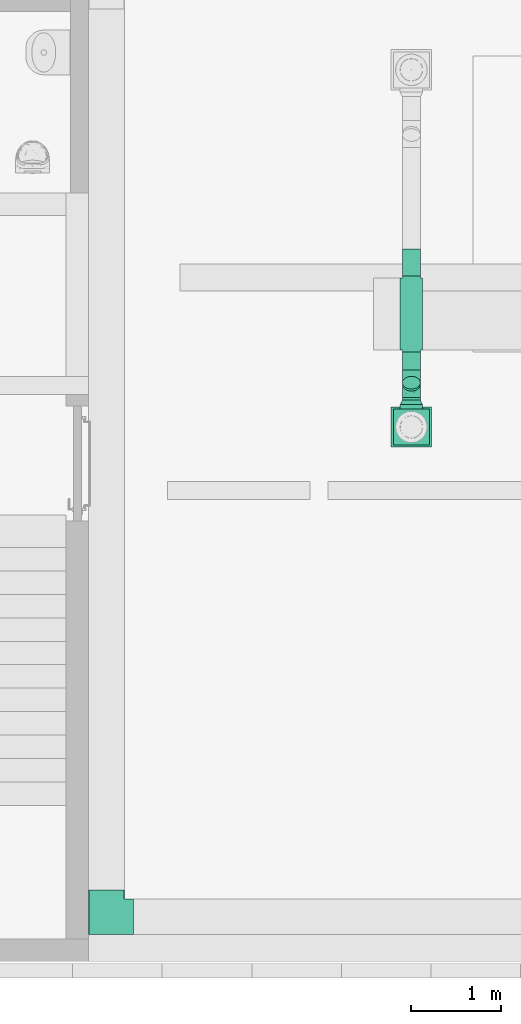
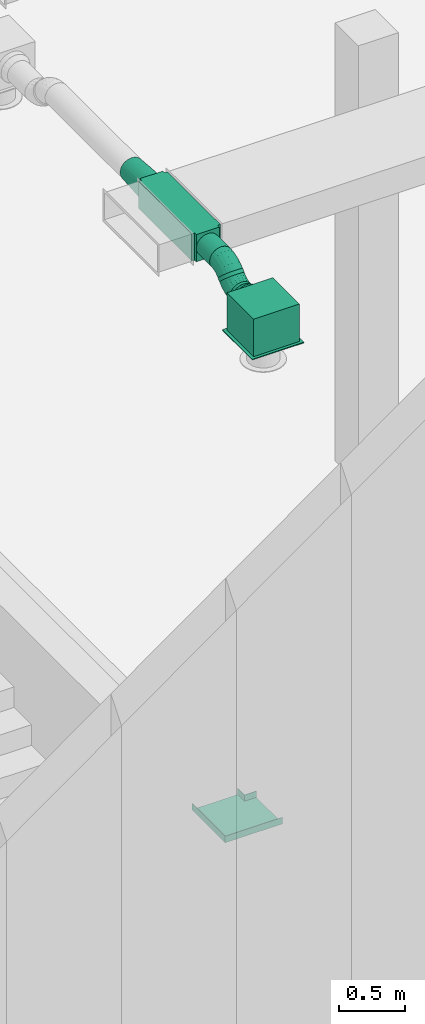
# One storey, part 258 of 302: 6 flow fittings, 3 flow segments, 1 flow terminal.
"""IFC2X3 building model written with IfcOpenShell, lengths in metres."""

from ifc_helpers import new_model, entity, si_unit, converted_unit, derived_unit, direction, frame, frame_2d, origin, origin_2d_with_axis, place, context, subcontext, project, spatial, polyline, rectangle, circle, outline, extrude, faceted_brep, source, transform, mapped, material, material_list, type_object, type_shapes, element, save


model = new_model("IFC2X3")

# Units and contexts
model_context = context("Model", 3, precision=1e-05, world=origin(), true_north=direction((6.12303176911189e-17, 1.0)))
body_context = subcontext(model_context, "Body", "Model", "MODEL_VIEW")
ifc_project = project(units=[si_unit("LENGTHUNIT", "METRE"), si_unit("AREAUNIT", "SQUARE_METRE"), si_unit("VOLUMEUNIT", "CUBIC_METRE"), converted_unit("PLANEANGLEUNIT", "DEGREE", entity("IfcRatioMeasure", 0.0174532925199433), si_unit("PLANEANGLEUNIT", "RADIAN"), dimensions=[0, 0, 0, 0, 0, 0, 0]), si_unit("MASSUNIT", "GRAM", prefix="KILO"), derived_unit("MASSDENSITYUNIT", [(si_unit("MASSUNIT", "GRAM", prefix="KILO"), 1), (si_unit("LENGTHUNIT", "METRE"), -3)]), derived_unit("MOMENTOFINERTIAUNIT", [(si_unit("LENGTHUNIT", "METRE"), 4)]), si_unit("TIMEUNIT", "SECOND"), si_unit("FREQUENCYUNIT", "HERTZ"), si_unit("THERMODYNAMICTEMPERATUREUNIT", "DEGREE_CELSIUS"), derived_unit("THERMALTRANSMITTANCEUNIT", [(si_unit("MASSUNIT", "GRAM", prefix="KILO"), 1), (si_unit("THERMODYNAMICTEMPERATUREUNIT", "KELVIN"), -1), (si_unit("TIMEUNIT", "SECOND"), -3)]), derived_unit("VOLUMETRICFLOWRATEUNIT", [(si_unit("LENGTHUNIT", "METRE"), 3), (si_unit("TIMEUNIT", "SECOND"), -1)]), si_unit("ELECTRICCURRENTUNIT", "AMPERE"), si_unit("ELECTRICVOLTAGEUNIT", "VOLT"), si_unit("POWERUNIT", "WATT"), si_unit("FORCEUNIT", "NEWTON", prefix="KILO"), si_unit("ILLUMINANCEUNIT", "LUX"), si_unit("LUMINOUSFLUXUNIT", "LUMEN"), si_unit("LUMINOUSINTENSITYUNIT", "CANDELA"), derived_unit("USERDEFINED", [(si_unit("MASSUNIT", "GRAM", prefix="KILO"), -1), (si_unit("LENGTHUNIT", "METRE"), -2), (si_unit("TIMEUNIT", "SECOND"), 3), (si_unit("LUMINOUSFLUXUNIT", "LUMEN"), 1)]), derived_unit("LINEARVELOCITYUNIT", [(si_unit("LENGTHUNIT", "METRE"), 1), (si_unit("TIMEUNIT", "SECOND"), -1)]), si_unit("PRESSUREUNIT", "PASCAL"), derived_unit("USERDEFINED", [(si_unit("LENGTHUNIT", "METRE"), -2), (si_unit("MASSUNIT", "GRAM", prefix="KILO"), 1), (si_unit("TIMEUNIT", "SECOND"), -2)]), derived_unit("LINEARFORCEUNIT", [(si_unit("MASSUNIT", "GRAM", prefix="KILO"), 1), (si_unit("LENGTHUNIT", "METRE"), 1), (si_unit("TIMEUNIT", "SECOND"), -2), (si_unit("LENGTHUNIT", "METRE"), -1)]), derived_unit("PLANARFORCEUNIT", [(si_unit("MASSUNIT", "GRAM", prefix="KILO"), 1), (si_unit("LENGTHUNIT", "METRE"), 1), (si_unit("TIMEUNIT", "SECOND"), -2), (si_unit("LENGTHUNIT", "METRE"), -2)])], contexts=[model_context])

# Site, building, storey
site_placement = place(None, origin())
site = spatial("IfcSite", under=ifc_project, at=site_placement, Name="Default", CompositionType="ELEMENT")
building_placement = place(site_placement, origin())
building = spatial("IfcBuilding", under=site, at=building_placement, CompositionType="ELEMENT")
storey_placement = place(building_placement, frame((0.0, 0.0, -1.3)))
storey = spatial("IfcBuildingStorey", under=building, at=storey_placement, Name="00_EG", CompositionType="ELEMENT", Elevation=-1.3)

# Flow fitting
ifc_material = material(Name="<Unnamed>")
cable_carrier_fitting_type = type_object("IfcCableCarrierFittingType", Name="Kabeltrasse - Bogen (Ecke) reduzierend:Standard", PredefinedType="NOTDEFINED", material=ifc_material)
shared_shape_1 = source(origin(), body_context, "Body", "Brep", [
    faceted_brep([(-0.299999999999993, -0.200000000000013, -0.0300000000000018), (-0.299999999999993, -0.200000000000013, 0.0299999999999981), (-0.299999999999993, -0.197460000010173, 0.0299999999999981), (-0.299999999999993, -0.197460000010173, -0.0274600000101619), (-0.299999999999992, 0.197460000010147, -0.0274600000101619), (-0.299999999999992, 0.197460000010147, 0.0299999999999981), (-0.299999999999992, 0.199999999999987, 0.0299999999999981), (-0.299999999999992, 0.199999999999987, -0.0300000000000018), (0.200000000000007, 0.299999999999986, -0.0300000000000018), (-0.199999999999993, 0.299999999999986, -0.0300000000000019), (-0.199999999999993, 0.299999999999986, 0.0299999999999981), (-0.197460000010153, 0.299999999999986, 0.0299999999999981), (-0.197460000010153, 0.299999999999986, -0.0274600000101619), (0.197460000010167, 0.299999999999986, -0.0274600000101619), (0.197460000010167, 0.299999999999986, 0.0299999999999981), (0.200000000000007, 0.299999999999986, 0.0299999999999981), (0.200000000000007, -0.200000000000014, -0.0300000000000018), (0.200000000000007, -0.200000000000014, 0.0299999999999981), (0.197460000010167, -0.197460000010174, 0.0299999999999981), (0.197460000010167, -0.197460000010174, -0.0274600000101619), (-0.197460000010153, 0.197460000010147, -0.0274600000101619), (-0.197460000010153, 0.197460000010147, 0.0299999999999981), (-0.199999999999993, 0.199999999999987, 0.0299999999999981), (-0.199999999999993, 0.199999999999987, -0.0300000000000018)], [[[0, 1, 2, 3, 4, 5, 6, 7]], [[8, 9, 10, 11, 12, 13, 14, 15]], [[1, 0, 16, 17]], [[2, 1, 17, 15, 14, 18]], [[3, 2, 18, 19]], [[4, 3, 19, 13, 12, 20]], [[5, 4, 20, 21]], [[6, 5, 21, 11, 10, 22]], [[7, 6, 22, 23]], [[0, 7, 23, 9, 8, 16]], [[17, 16, 8, 15]], [[19, 18, 14, 13]], [[21, 20, 12, 11]], [[23, 22, 10, 9]]]),
])
type_shapes(cable_carrier_fitting_type, [shared_shape_1])
flow_fitting_1_placement = place(storey_placement, frame((-262.460111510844, 15.4980889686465, 4.85), z_axis=(0.0, 0.0, 1.0), x_axis=(0.0, -1.0, 0.0)))
element("IfcFlowFitting", 1, at=flow_fitting_1_placement, inside=storey, type_object=cable_carrier_fitting_type, material=ifc_material, Name="Kabeltrasse - Bogen (Ecke) reduzierend:Standard", ObjectType="Kabeltrasse - Bogen (Ecke) reduzierend:Standard", context=body_context, shape_type="MappedRepresentation", body=[
    mapped(shared_shape_1, transform((0.0, 0.0, 0.0), scale=1.0)),
])

# Flow segments
duct_segment_type = type_object("IfcDuctSegmentType", Name="Rund:STR_Segment_RND_GS_EA", PredefinedType="NOTDEFINED")
flow_segment_1_placement = place(storey_placement, origin())
element("IfcFlowSegment", 2, at=flow_segment_1_placement, inside=storey, type_object=duct_segment_type, Name="Rund:STR_Segment_RND_GS_EA", ObjectType="Rund:STR_Segment_RND_GS_EA", context=body_context, shape_type="SweptSolid", body=[
    extrude(circle(Radius=0.1, at=frame_2d((0.0, -3.06281271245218e-15), x_axis=(1.0, 0.0))), frame((-259.059474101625, 21.4325516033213, 5.04357873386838), z_axis=(0.0, 0.707106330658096, 0.707107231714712), x_axis=(1.0, 0.0, 0.0)), (0.0, 0.0, 1.0), 0.0323041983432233),
])
flow_segment_2_placement = place(storey_placement, origin())
element("IfcFlowSegment", 3, at=flow_segment_2_placement, inside=storey, type_object=duct_segment_type, Name="Rund:STR_Segment_RND_GS_EA", ObjectType="Rund:STR_Segment_RND_GS_EA", context=body_context, shape_type="SweptSolid", body=[
    extrude(circle(Radius=0.1, at=origin_2d_with_axis()), frame((-259.059474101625, 21.2618155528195, 4.985), z_axis=(0.0, 1.0, 0.0), x_axis=(1.0, 0.0, 0.0)), (0.0, 0.0, 1.0), 0.0293146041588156),
])
flow_segment_3_placement = place(storey_placement, origin())
element("IfcFlowSegment", 4, at=flow_segment_3_placement, inside=storey, type_object=duct_segment_type, Name="Rund:STR_Segment_RND_GS_EA", ObjectType="Rund:STR_Segment_RND_GS_EA", context=body_context, shape_type="SweptSolid", body=[
    extrude(circle(Radius=0.1, at=origin_2d_with_axis()), frame((-259.059474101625, 21.5968155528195, 5.12500000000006), z_axis=(0.0, 1.0, 0.0), x_axis=(1.0, 0.0, 0.0)), (0.0, 0.0, 1.0), 0.200000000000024),
])

# Flow fittings
duct_fitting_type_1 = type_object("IfcDuctFittingType", Name="STR_RCT_Cross:STR_Cross_RCT_GS_RA", PredefinedType="NOTDEFINED", material=ifc_material)
shared_shape_2 = source(origin(), body_context, "Body", "SweptSolid", [
    extrude(outline(polyline([(-0.424999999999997, 0.0999999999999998), (-0.424999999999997, -0.1), (-0.400000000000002, -0.1), (-0.400000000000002, -0.124999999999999), (0.399999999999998, -0.124999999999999), (0.399999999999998, -0.100000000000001), (0.425000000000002, -0.100000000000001), (0.425000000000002, 0.0999999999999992), (0.399999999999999, 0.0999999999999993), (0.399999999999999, 0.125000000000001), (-0.400000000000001, 0.125000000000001), (-0.400000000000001, 0.0999999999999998), (-0.424999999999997, 0.0999999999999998)])), frame((0.0, 0.0, -0.125000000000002), z_axis=(0.0, 0.0, -1.0), x_axis=(0.0, 1.0, 0.0)), (0.0, 0.0, -1.0), 0.25),
])
type_shapes(duct_fitting_type_1, [shared_shape_2])
flow_fitting_2_placement = place(storey_placement, frame((-259.059474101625, 22.2218155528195, 5.125)))
element("IfcFlowFitting", 5, at=flow_fitting_2_placement, inside=storey, type_object=duct_fitting_type_1, material=ifc_material, Name="STR_RCT_Cross:STR_Cross_RCT_GS_RA", ObjectType="STR_RCT_Cross:STR_Cross_RCT_GS_RA", context=body_context, shape_type="MappedRepresentation", body=[
    mapped(shared_shape_2, transform((0.0, 0.0, 0.0), scale=1.0)),
])
duct_fitting_type_2 = type_object("IfcDuctFittingType", Name="STR_OVL_Transition:STR_Transition_OVL_GS_EA", PredefinedType="NOTDEFINED", material=ifc_material)
shared_shape_3 = source(origin(), body_context, "Body", "Brep", [
    faceted_brep([(0.300000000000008, 0.0999999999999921, 0.00158749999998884), (0.300000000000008, 0.0966466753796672, 0.0270585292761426), (0.300000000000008, 0.0868152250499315, 0.050793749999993), (0.300000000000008, 0.0711756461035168, 0.0711756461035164), (0.300000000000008, 0.0507937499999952, 0.0868152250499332), (0.300000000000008, 0.0270585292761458, 0.0966466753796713), (0.300000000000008, 0.00158749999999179, 0.0999999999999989), (0.300000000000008, -0.00158750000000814, 0.0999999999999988), (0.300000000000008, -0.0270585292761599, 0.0966466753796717), (0.300000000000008, -0.0507937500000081, 0.0868152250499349), (0.300000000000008, -0.0711756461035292, 0.07117564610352), (0.300000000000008, -0.0868152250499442, 0.0507937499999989), (0.300000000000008, -0.0966466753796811, 0.0270585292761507), (0.300000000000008, -0.100000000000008, 0.00158749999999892), (0.300000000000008, -0.100000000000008, -0.00158750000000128), (0.300000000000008, -0.0966466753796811, -0.0270585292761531), (0.300000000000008, -0.0868152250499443, -0.0507937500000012), (0.300000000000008, -0.0711756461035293, -0.0711756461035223), (0.300000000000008, -0.0507937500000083, -0.0868152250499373), (0.300000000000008, -0.0270585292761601, -0.0966466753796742), (0.300000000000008, -0.00158750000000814, -0.100000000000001), (0.300000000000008, 0.0015874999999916, -0.100000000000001), (0.300000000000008, 0.0270585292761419, -0.0966466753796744), (0.300000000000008, 0.0507937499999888, -0.0868152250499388), (0.300000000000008, 0.0711756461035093, -0.0711756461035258), (0.300000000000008, 0.0868152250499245, -0.0507937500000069), (0.300000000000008, 0.0966466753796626, -0.0270585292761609), (0.300000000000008, 0.0999999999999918, -0.00158750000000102), (0.0, 0.00158749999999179, -0.125000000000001), (0.0, -0.00158750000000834, -0.125000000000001), (0.0, -0.0270585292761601, -0.121646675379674), (0.0, -0.0507937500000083, -0.111815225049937), (0.0, -0.0711756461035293, -0.0961756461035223), (0.0, -0.0868152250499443, -0.0757937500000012), (0.0, -0.0966466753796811, -0.0520585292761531), (0.0, -0.100000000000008, -0.026587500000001), (0.0, -0.100000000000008, 0.0265874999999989), (0.0, -0.0966466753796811, 0.0520585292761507), (0.0, -0.0868152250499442, 0.0757937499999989), (0.0, -0.0711756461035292, 0.0961756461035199), (0.0, -0.0507937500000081, 0.111815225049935), (0.0, -0.0270585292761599, 0.121646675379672), (0.0, -0.00158750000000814, 0.124999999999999), (0.0, 0.00158749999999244, 0.124999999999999), (0.0, 0.0270585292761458, 0.121646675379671), (0.0, 0.0507937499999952, 0.111815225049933), (0.0, 0.0711756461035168, 0.0961756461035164), (0.0, 0.0868152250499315, 0.0757937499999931), (0.0, 0.0966466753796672, 0.0520585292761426), (0.0, 0.0999999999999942, 0.026587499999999), (0.0, 0.0999999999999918, -0.0265875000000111), (0.0, 0.0966466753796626, -0.052058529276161), (0.0, 0.0868152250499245, -0.0757937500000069), (0.0, 0.0711756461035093, -0.0961756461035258), (0.0, 0.0507937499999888, -0.111815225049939), (0.0, 0.0270585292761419, -0.121646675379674), (0.154247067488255, -0.0203412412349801, 0.110342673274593), (0.145752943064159, -0.0981965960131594, 0.03319516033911), (0.107489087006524, -0.00158750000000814, 0.116042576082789), (0.149999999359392, -0.0614972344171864, 0.0921633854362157), (0.15000000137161, -0.0392483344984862, 0.105008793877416), (0.150000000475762, -0.0796633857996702, 0.0739972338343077), (0.192510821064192, -0.100000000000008, 0.0105449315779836), (0.149999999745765, -0.0925087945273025, 0.0517483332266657), (0.107489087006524, -0.100000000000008, -0.0176300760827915), (0.154247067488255, -0.0981965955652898, -0.0324873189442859), (0.145752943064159, -0.0203412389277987, -0.111050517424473), (0.149999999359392, -0.0796633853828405, -0.0739972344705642), (0.15000000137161, -0.0925087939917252, -0.0517483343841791), (0.150000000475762, -0.0614972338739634, -0.0921633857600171), (0.192511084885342, -0.00158750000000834, -0.10895740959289), (0.149999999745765, -0.0392483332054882, -0.105008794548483), (0.107489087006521, 0.0015874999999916, -0.116042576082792), (0.154247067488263, 0.0203412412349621, -0.110342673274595), (0.145752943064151, 0.0981965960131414, -0.0331951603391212), (0.149999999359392, 0.0614972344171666, -0.0921633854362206), (0.15000000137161, 0.0392483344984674, -0.105008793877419), (0.150000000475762, 0.0796633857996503, -0.0739972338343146), (0.192510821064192, 0.0999999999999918, -0.0105449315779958), (0.149999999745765, 0.0925087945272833, -0.0517483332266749), (0.107489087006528, 0.0999999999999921, 0.0176300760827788), (0.154247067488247, 0.0981965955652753, 0.0324873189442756), (0.145752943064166, 0.0203412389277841, 0.11105051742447), (0.149999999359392, 0.079663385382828, 0.0739972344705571), (0.15000000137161, 0.0925087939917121, 0.0517483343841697), (0.150000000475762, 0.0614972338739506, 0.0921633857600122), (0.192510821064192, 0.00158749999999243, 0.108957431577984), (0.149999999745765, 0.0392483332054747, 0.105008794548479)], [[[0, 1, 2, 3, 4, 5, 6, 7, 8, 9, 10, 11, 12, 13, 14, 15, 16, 17, 18, 19, 20, 21, 22, 23, 24, 25, 26, 27]], [[28, 29, 30, 31, 32, 33, 34, 35, 36, 37, 38, 39, 40, 41, 42, 43, 44, 45, 46, 47, 48, 49, 50, 51, 52, 53, 54, 55]], [[56, 42, 41]], [[36, 57, 37]], [[56, 7, 58, 42]], [[40, 39, 59]], [[41, 60, 56]], [[59, 60, 40]], [[61, 59, 39]], [[41, 40, 60]], [[8, 56, 60]], [[10, 9, 59]], [[9, 60, 59]], [[57, 36, 62, 13]], [[38, 37, 63]], [[63, 61, 38]], [[12, 57, 13]], [[12, 63, 57]], [[9, 8, 60]], [[10, 61, 11]], [[12, 11, 63]], [[63, 11, 61]], [[37, 57, 63]], [[61, 10, 59]], [[61, 39, 38]], [[7, 56, 8]], [[35, 64, 14, 13, 62, 36]], [[65, 35, 34]], [[29, 66, 30]], [[65, 14, 64, 35]], [[33, 32, 67]], [[34, 68, 65]], [[67, 68, 33]], [[69, 67, 32]], [[34, 33, 68]], [[15, 65, 68]], [[17, 16, 67]], [[16, 68, 67]], [[66, 29, 70, 20]], [[31, 30, 71]], [[71, 69, 31]], [[19, 66, 20]], [[19, 71, 66]], [[16, 15, 68]], [[17, 69, 18]], [[19, 18, 71]], [[71, 18, 69]], [[30, 66, 71]], [[69, 17, 67]], [[69, 32, 31]], [[14, 65, 15]], [[28, 72, 21, 20, 70, 29]], [[73, 28, 55]], [[50, 74, 51]], [[73, 21, 72, 28]], [[54, 53, 75]], [[55, 76, 73]], [[75, 76, 54]], [[77, 75, 53]], [[55, 54, 76]], [[22, 73, 76]], [[24, 23, 75]], [[23, 76, 75]], [[74, 50, 78, 27]], [[52, 51, 79]], [[79, 77, 52]], [[26, 74, 27]], [[26, 79, 74]], [[23, 22, 76]], [[24, 77, 25]], [[26, 25, 79]], [[79, 25, 77]], [[51, 74, 79]], [[77, 24, 75]], [[77, 53, 52]], [[21, 73, 22]], [[49, 80, 0, 27, 78, 50]], [[81, 49, 48]], [[43, 82, 44]], [[81, 0, 80, 49]], [[47, 46, 83]], [[48, 84, 81]], [[83, 84, 47]], [[85, 83, 46]], [[48, 47, 84]], [[1, 81, 84]], [[3, 2, 83]], [[2, 84, 83]], [[82, 43, 86, 6]], [[45, 44, 87]], [[87, 85, 45]], [[5, 82, 6]], [[5, 87, 82]], [[2, 1, 84]], [[3, 85, 4]], [[5, 4, 87]], [[87, 4, 85]], [[44, 82, 87]], [[85, 3, 83]], [[85, 46, 45]], [[0, 81, 1]], [[42, 58, 7, 6, 86, 43]]]),
])
type_shapes(duct_fitting_type_2, [shared_shape_3])
flow_fitting_3_placement = place(storey_placement, frame((-259.059474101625, 22.6468155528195, 5.125), z_axis=(0.0, 0.0, 1.0), x_axis=(0.0, 1.0, 0.0)))
element("IfcFlowFitting", 6, at=flow_fitting_3_placement, inside=storey, type_object=duct_fitting_type_2, material=ifc_material, Name="STR_OVL_Transition:STR_Transition_OVL_GS_EA", ObjectType="STR_OVL_Transition:STR_Transition_OVL_GS_EA", context=body_context, shape_type="MappedRepresentation", body=[
    mapped(shared_shape_3, transform((0.0, 0.0, 0.0), scale=1.0)),
])

# Flow terminal
ifc_material_list = material_list([ifc_material, ifc_material, ifc_material])
air_terminal_type = type_object("IfcAirTerminalType", Name="Drallauslass Zuluft seitlich:600 quadratisch", PredefinedType="NOTDEFINED", material=ifc_material_list)
shared_shape_4 = source(origin(), body_context, "Body", "SweptSolid", [
    extrude(rectangle(XDim=0.450000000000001, YDim=0.449999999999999, at=origin_2d_with_axis()), frame((0.0, 0.0, 2.692), z_axis=(0.0, 0.0, 1.0), x_axis=(0.0, 1.0, 0.0)), (0.0, 0.0, 1.0), 0.00800000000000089),
    extrude(circle(Radius=0.125, at=frame_2d((1.22275294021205e-18, -5.41433564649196e-16), x_axis=(1.0, 0.0))), frame((-0.25, 0.0, 2.89500000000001), z_axis=(1.0, 0.0, 0.0), x_axis=(0.0, -1.0, 0.0)), (0.0, 0.0, 1.0), 0.0499999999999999),
    extrude(rectangle(XDim=0.4, YDim=0.399999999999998, at=origin_2d_with_axis()), frame((0.0, 0.0, 2.7), z_axis=(0.0, 0.0, 1.0), x_axis=(0.0, 1.0, 0.0)), (0.0, 0.0, 1.0), 0.345000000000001),
])
type_shapes(air_terminal_type, [shared_shape_4])
flow_terminal_placement = place(storey_placement, frame((-259.059474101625, 20.9618155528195, 2.08999999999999), z_axis=(0.0, 0.0, 1.0), x_axis=(0.0, -1.0, 0.0)))
element("IfcFlowTerminal", 7, at=flow_terminal_placement, inside=storey, type_object=air_terminal_type, material=ifc_material, Name="Drallauslass Zuluft seitlich:600 quadratisch", ObjectType="Drallauslass Zuluft seitlich:600 quadratisch", context=body_context, shape_type="MappedRepresentation", body=[
    mapped(shared_shape_4, transform((0.0, 0.0, 0.0), scale=1.0)),
])

# Flow fittings
duct_fitting_type_3 = type_object("IfcDuctFittingType", Name="STR_RND_Transition:STR_Transition_RND_GS_EA", PredefinedType="NOTDEFINED", material=ifc_material)
shared_shape_5 = source(origin(), body_context, "Body", "Brep", [
    faceted_brep([(0.0500000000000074, -0.0587785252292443, -0.0809016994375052), (0.0500000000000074, -0.0309016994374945, -0.0951056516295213), (0.0500000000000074, 0.0, -0.10000000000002), (0.0500000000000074, 0.0309016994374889, -0.0951056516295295), (0.0500000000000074, 0.058778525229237, -0.0809016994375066), (0.0500000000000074, 0.0809016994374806, -0.0587785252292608), (0.0500000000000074, 0.0951056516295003, -0.0309016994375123), (0.0500000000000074, 0.0999999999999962, 0.0), (0.0500000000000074, 0.0951056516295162, 0.0309016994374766), (0.0500000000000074, 0.0809016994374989, 0.0587785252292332), (0.0500000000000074, 0.0587785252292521, 0.0809016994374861), (0.0500000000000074, 0.0309016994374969, 0.0951056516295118), (0.0500000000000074, 0.0, 0.0999999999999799), (0.0500000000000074, -0.0309016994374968, 0.0951056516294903), (0.0500000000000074, -0.058778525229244, 0.0809016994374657), (0.0500000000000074, -0.0809016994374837, 0.0587785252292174), (0.0500000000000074, -0.0951056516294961, 0.0309016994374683), (0.0500000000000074, -0.100000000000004, 0.0), (0.0500000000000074, -0.0951056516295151, -0.030901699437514), (0.0500000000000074, -0.0809016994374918, -0.0587785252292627), (0.0, -0.124999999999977, 0.0), (0.0, -0.118882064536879, 0.038627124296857), (0.0, -0.101127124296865, 0.073473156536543), (0.0, -0.0734731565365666, 0.101127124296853), (0.0, -0.0386271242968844, 0.118882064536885), (0.0, 0.0, 0.125000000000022), (0.0, 0.0386271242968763, 0.11888206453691), (0.0, 0.0734731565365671, 0.101127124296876), (0.0, 0.101127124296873, 0.0734731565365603), (0.0, 0.118882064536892, 0.038627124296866), (0.0, 0.124999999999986, 0.0), (0.0, 0.118882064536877, -0.0386271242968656), (0.0, 0.101127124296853, -0.0734731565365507), (0.0, 0.0734731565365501, -0.101127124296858), (0.0, 0.0386271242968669, -0.118882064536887), (0.0, 0.0, -0.124999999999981), (0.0, -0.0386271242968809, -0.118882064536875), (0.0, -0.0734731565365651, -0.101127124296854), (0.0, -0.101127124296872, -0.0734731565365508), (0.0, -0.118882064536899, -0.0386271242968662)], [[[0, 1, 2, 3, 4, 5, 6, 7, 8, 9, 10, 11, 12, 13, 14, 15, 16, 17, 18, 19]], [[20, 21, 22, 23, 24, 25, 26, 27, 28, 29, 30, 31, 32, 33, 34, 35, 36, 37, 38, 39]], [[26, 25, 12, 11]], [[27, 26, 11, 10]], [[10, 9, 28, 27]], [[8, 7, 30, 29]], [[9, 8, 29, 28]], [[21, 20, 17, 16]], [[22, 21, 16, 15]], [[15, 14, 23, 22]], [[13, 12, 25, 24]], [[14, 13, 24, 23]], [[36, 35, 2, 1]], [[37, 36, 1, 0]], [[0, 19, 38, 37]], [[18, 17, 20, 39]], [[19, 18, 39, 38]], [[31, 30, 7, 6]], [[32, 31, 6, 5]], [[5, 4, 33, 32]], [[3, 2, 35, 34]], [[4, 3, 34, 33]]]),
])
type_shapes(duct_fitting_type_3, [shared_shape_5])
flow_fitting_4_placement = place(storey_placement, frame((-259.059474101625, 21.2118155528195, 4.985), z_axis=(0.0, 0.0, 1.0), x_axis=(0.0, 1.0, 0.0)))
element("IfcFlowFitting", 8, at=flow_fitting_4_placement, inside=storey, type_object=duct_fitting_type_3, material=ifc_material, Name="STR_RND_Transition:STR_Transition_RND_GS_EA", ObjectType="STR_RND_Transition:STR_Transition_RND_GS_EA", context=body_context, shape_type="MappedRepresentation", body=[
    mapped(shared_shape_5, transform((0.0, 0.0, 0.0), scale=1.0)),
])
duct_fitting_type_4 = type_object("IfcDuctFittingType", Name="STR_RND_Elbow:STR_Elbow_RND_GS_EA", PredefinedType="NOTDEFINED", material=ifc_material)
shared_shape_6 = source(origin(), body_context, "Body", "Brep", [
    faceted_brep([(-0.0438246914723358, 0.00384295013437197, 0.0999999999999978), (-0.0498533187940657, 0.0341508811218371, 0.0951056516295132), (-0.0828427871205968, 0.0309016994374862, 0.0951056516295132), (-0.0828427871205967, 0.0, 0.0999999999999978), (-0.0552918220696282, 0.061492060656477, 0.0809016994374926), (-0.0828427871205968, 0.0587785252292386, 0.0809016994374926), (-0.0596078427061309, 0.0831901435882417, 0.0587785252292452), (-0.0828427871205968, 0.0809016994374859, 0.0587785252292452), (-0.0623788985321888, 0.097121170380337, 0.0309016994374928), (-0.0828427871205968, 0.0951056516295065, 0.0309016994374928), (-0.0633337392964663, 0.101921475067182, 0.0), (-0.0828427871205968, 0.0999999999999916, 0.0), (-0.0623788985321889, 0.0971211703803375, -0.030901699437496), (-0.0828427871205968, 0.095105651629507, -0.030901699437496), (-0.059607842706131, 0.0831901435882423, -0.0587785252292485), (-0.0828427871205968, 0.0809016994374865, -0.0587785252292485), (-0.0552918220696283, 0.0614920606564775, -0.0809016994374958), (-0.0828427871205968, 0.0587785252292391, -0.0809016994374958), (-0.0498533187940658, 0.0341508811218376, -0.0951056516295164), (-0.0828427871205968, 0.0309016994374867, -0.0951056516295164), (-0.043824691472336, 0.00384295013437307, -0.100000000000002), (-0.0828427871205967, 0.0, -0.100000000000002), (-0.037796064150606, -0.0264649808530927, -0.0951056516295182), (-0.0828427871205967, -0.0309016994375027, -0.0951056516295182), (-0.0323575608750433, -0.0538061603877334, -0.0809016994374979), (-0.0828427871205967, -0.0587785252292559, -0.0809016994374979), (-0.0280415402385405, -0.075504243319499, -0.0587785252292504), (-0.0828427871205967, -0.080901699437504, -0.0587785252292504), (-0.0252704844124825, -0.0894352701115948, -0.0309016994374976), (-0.0828427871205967, -0.0951056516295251, -0.0309016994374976), (-0.0243156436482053, -0.0942355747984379, 0.0), (-0.0828427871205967, -0.100000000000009, 0.0), (-0.0252704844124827, -0.0894352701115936, 0.0309016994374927), (-0.0828427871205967, -0.0951056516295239, 0.0309016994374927), (-0.0280415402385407, -0.0755042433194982, 0.0587785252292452), (-0.0828427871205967, -0.0809016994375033, 0.0587785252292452), (-0.0323575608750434, -0.0538061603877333, 0.0809016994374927), (-0.0828427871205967, -0.0587785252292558, 0.0809016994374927), (-0.0377960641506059, -0.0264649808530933, 0.0951056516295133), (-0.0828427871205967, -0.0309016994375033, 0.0951056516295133), (-0.00630604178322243, 0.0152241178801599, 0.0999999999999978), (-0.0181316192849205, 0.0437735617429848, 0.0951056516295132), (-0.028799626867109, 0.0695283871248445, 0.0809016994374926), (-0.037265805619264, 0.0899675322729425, 0.0587785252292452), (-0.0427014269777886, 0.103090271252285, 0.0309016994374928), (-0.0445744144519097, 0.107612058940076, 0.0), (-0.0427014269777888, 0.103090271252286, -0.030901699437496), (-0.0372658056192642, 0.089967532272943, -0.0587785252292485), (-0.0287996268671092, 0.069528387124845, -0.0809016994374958), (-0.0181316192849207, 0.0437735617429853, -0.0951056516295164), (-0.00630604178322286, 0.015224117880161, -0.100000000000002), (0.00551953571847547, -0.0133253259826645, -0.0951056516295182), (0.0161875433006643, -0.039080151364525, -0.0809016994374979), (0.0246537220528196, -0.0595192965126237, -0.0587785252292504), (0.0300893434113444, -0.0726420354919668, -0.0309016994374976), (0.0319623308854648, -0.077163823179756, 0.0), (0.0300893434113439, -0.0726420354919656, 0.0309016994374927), (0.0246537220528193, -0.059519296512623, 0.0587785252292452), (0.0161875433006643, -0.0390801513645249, 0.0809016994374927), (0.0055195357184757, -0.0133253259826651, 0.0951056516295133), (0.0282713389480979, 0.0337061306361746, 0.0999999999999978), (0.0111032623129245, 0.0593999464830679, 0.0951056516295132), (-0.00438428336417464, 0.0825786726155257, 0.0809016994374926), (-0.0166752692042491, 0.100973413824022, 0.0587785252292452), (-0.0245665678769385, 0.112783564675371, 0.0309016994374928), (-0.0272857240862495, 0.116853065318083, 0.0), (-0.0245665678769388, 0.112783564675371, -0.030901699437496), (-0.0166752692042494, 0.100973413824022, -0.0587785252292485), (-0.00438428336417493, 0.0825786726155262, -0.0809016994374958), (0.0111032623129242, 0.0593999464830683, -0.0951056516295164), (0.0282713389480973, 0.0337061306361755, -0.100000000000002), (0.0454394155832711, 0.00801231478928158, -0.0951056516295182), (0.0609269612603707, -0.0151664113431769, -0.0809016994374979), (0.0732179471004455, -0.0335611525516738, -0.0587785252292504), (0.0811092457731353, -0.0453713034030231, -0.0309016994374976), (0.0838284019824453, -0.049440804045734, 0.0), (0.0811092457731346, -0.0453713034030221, 0.0309016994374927), (0.0732179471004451, -0.0335611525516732, 0.0587785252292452), (0.0609269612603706, -0.0151664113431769, 0.0809016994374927), (0.0454394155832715, 0.00801231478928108, 0.0951056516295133), (0.0585786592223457, 0.0585787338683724, 0.0999999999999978), (0.0367278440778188, 0.0804295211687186, 0.0951056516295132), (0.0170159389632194, 0.10014140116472, 0.0809016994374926), (0.00137248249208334, 0.115784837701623, 0.0587785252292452), (-0.00867123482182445, 0.125828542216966, 0.0309016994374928), (-0.0121320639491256, 0.129289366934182, 0.0), (-0.00867123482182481, 0.125828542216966, -0.030901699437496), (0.00137248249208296, 0.115784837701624, -0.0587785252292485), (0.0170159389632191, 0.10014140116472, -0.0809016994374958), (0.0367278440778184, 0.080429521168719, -0.0951056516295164), (0.0585786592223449, 0.0585787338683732, -0.100000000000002), (0.0804294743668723, 0.0367279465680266, -0.0951056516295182), (0.100141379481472, 0.0170160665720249, -0.0809016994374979), (0.115784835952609, 0.00137263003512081, -0.0587785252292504), (0.125828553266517, -0.00867107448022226, -0.0309016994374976), (0.129289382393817, -0.0121318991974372, 0.0), (0.125828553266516, -0.00867107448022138, 0.0309016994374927), (0.115784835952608, 0.00137263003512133, 0.0587785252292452), (0.100141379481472, 0.017016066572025, 0.0809016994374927), (0.0804294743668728, 0.0367279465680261, 0.0951056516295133)], [[[0, 1, 2, 3]], [[1, 4, 5, 2]], [[4, 6, 7, 5]], [[6, 8, 9, 7]], [[8, 10, 11, 9]], [[10, 12, 13, 11]], [[12, 14, 15, 13]], [[14, 16, 17, 15]], [[16, 18, 19, 17]], [[18, 20, 21, 19]], [[20, 22, 23, 21]], [[22, 24, 25, 23]], [[24, 26, 27, 25]], [[26, 28, 29, 27]], [[28, 30, 31, 29]], [[30, 32, 33, 31]], [[32, 34, 35, 33]], [[34, 36, 37, 35]], [[36, 38, 39, 37]], [[38, 0, 3, 39]], [[40, 41, 1, 0]], [[41, 42, 4, 1]], [[42, 43, 6, 4]], [[43, 44, 8, 6]], [[44, 45, 10, 8]], [[45, 46, 12, 10]], [[46, 47, 14, 12]], [[47, 48, 16, 14]], [[48, 49, 18, 16]], [[49, 50, 20, 18]], [[50, 51, 22, 20]], [[51, 52, 24, 22]], [[52, 53, 26, 24]], [[53, 54, 28, 26]], [[54, 55, 30, 28]], [[55, 56, 32, 30]], [[56, 57, 34, 32]], [[57, 58, 36, 34]], [[58, 59, 38, 36]], [[59, 40, 0, 38]], [[60, 61, 41, 40]], [[61, 62, 42, 41]], [[62, 63, 43, 42]], [[63, 64, 44, 43]], [[64, 65, 45, 44]], [[65, 66, 46, 45]], [[66, 67, 47, 46]], [[67, 68, 48, 47]], [[68, 69, 49, 48]], [[69, 70, 50, 49]], [[70, 71, 51, 50]], [[71, 72, 52, 51]], [[72, 73, 53, 52]], [[73, 74, 54, 53]], [[74, 75, 55, 54]], [[75, 76, 56, 55]], [[76, 77, 57, 56]], [[77, 78, 58, 57]], [[78, 79, 59, 58]], [[79, 60, 40, 59]], [[80, 81, 61, 60]], [[81, 82, 62, 61]], [[82, 83, 63, 62]], [[83, 84, 64, 63]], [[84, 85, 65, 64]], [[85, 86, 66, 65]], [[86, 87, 67, 66]], [[87, 88, 68, 67]], [[88, 89, 69, 68]], [[89, 90, 70, 69]], [[90, 91, 71, 70]], [[91, 92, 72, 71]], [[92, 93, 73, 72]], [[93, 94, 74, 73]], [[94, 95, 75, 74]], [[95, 96, 76, 75]], [[96, 97, 77, 76]], [[97, 98, 78, 77]], [[98, 99, 79, 78]], [[99, 80, 60, 79]], [[3, 2, 5, 7, 9, 11, 13, 15, 17, 19, 21, 23, 25, 27, 29, 31, 33, 35, 37, 39]], [[99, 98, 97, 96, 95, 94, 93, 92, 91, 90, 89, 88, 87, 86, 85, 84, 83, 82, 81, 80]]]),
])
type_shapes(duct_fitting_type_4, [shared_shape_6])
for number, where, z_axis, x_axis in (
    (9, (-259.059474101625, 21.3739729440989, 4.98500000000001), (1.0, 0.0, 0.0), (0.0, 1.0, 0.0)),
    (10, (-259.059474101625, 21.5139727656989, 5.12499999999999), (-1.0, 0.0, 0.0), (0.0, 0.707106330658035, 0.707107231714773)),
):
    element("IfcFlowFitting", number, at=place(storey_placement, frame(where, z_axis=z_axis, x_axis=x_axis)), inside=storey, type_object=duct_fitting_type_4, material=ifc_material, Name="STR_RND_Elbow:STR_Elbow_RND_GS_EA", ObjectType="STR_RND_Elbow:STR_Elbow_RND_GS_EA", context=body_context, shape_type="MappedRepresentation", body=[
        mapped(shared_shape_6, transform((0.0, 0.0, 0.0), scale=1.0)),
    ])

save(model, "model.ifc")
